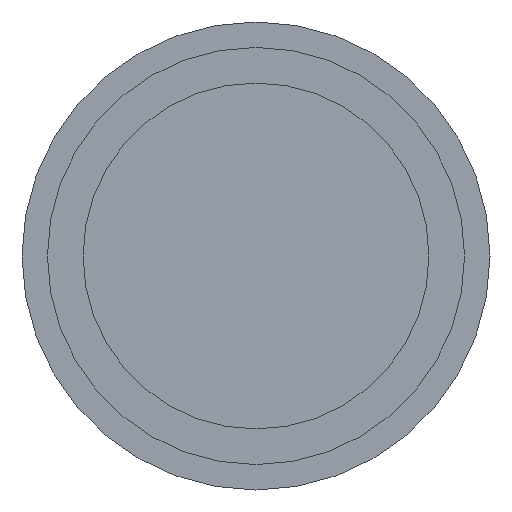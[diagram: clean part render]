
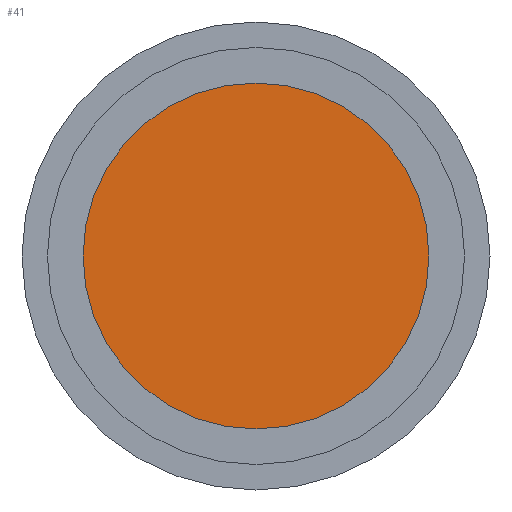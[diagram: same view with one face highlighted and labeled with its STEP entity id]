
A CAD part, left-side view. The second image highlights one B-rep face of the part: STEP entity #41.
In plain terms, the highlighted planar face has unit normal (-1, 0, 0).
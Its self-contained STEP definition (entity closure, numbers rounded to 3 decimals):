
#41 = ADVANCED_FACE( '', ( #82 ), #83, .T. );
#82 = FACE_OUTER_BOUND( '', #115, .T. );
#83 = PLANE( '', #116 );
#115 = EDGE_LOOP( '', ( #152 ) );
#116 = AXIS2_PLACEMENT_3D( '', #153, #154, #155 );
#152 = ORIENTED_EDGE( '', *, *, #171, .T. );
#153 = CARTESIAN_POINT( '', ( 0.01, 0., 17. ) );
#154 = DIRECTION( '', ( -1., 0., 0. ) );
#155 = DIRECTION( '', ( 0., 0., 1. ) );
#171 = EDGE_CURVE( '', #189, #189, #190, .T. );
#189 = VERTEX_POINT( '', #208 );
#190 = CIRCLE( '', #209, 17. );
#208 = CARTESIAN_POINT( '', ( 0.01, 0., 17. ) );
#209 = AXIS2_PLACEMENT_3D( '', #227, #228, #229 );
#227 = CARTESIAN_POINT( '', ( 0.01, 0., 0. ) );
#228 = DIRECTION( '', ( -1., 0., 0. ) );
#229 = DIRECTION( '', ( 0., 0., 1. ) );
